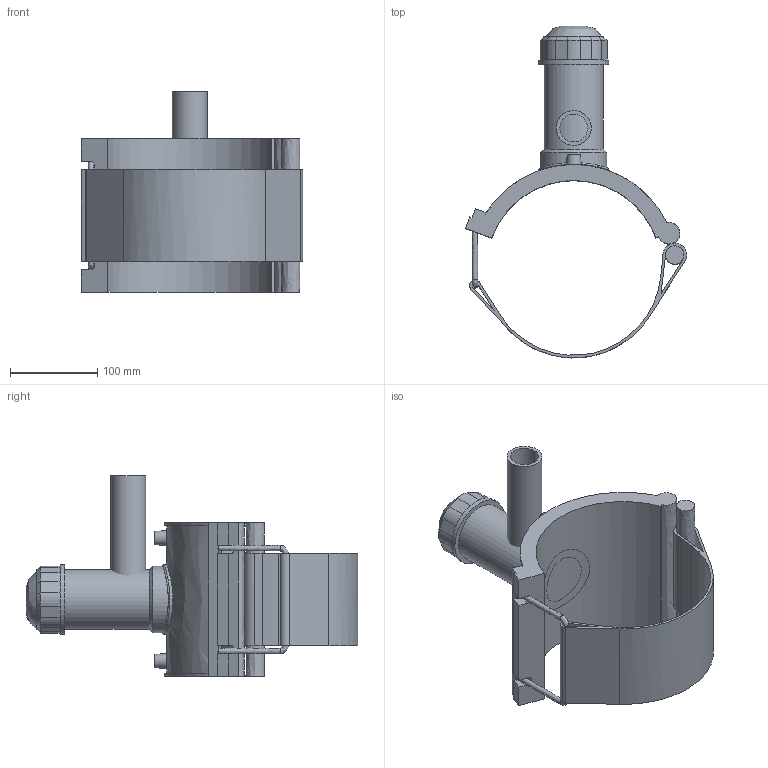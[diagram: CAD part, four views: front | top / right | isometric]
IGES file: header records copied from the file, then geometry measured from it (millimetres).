
Global section: file name: 4963P4200040; native system: Autodesk Inventor 2019; preprocessor: unknown; author: KIM; date: 20220317.113146; units: millimetre
Bounding box: 253.18 x 379.96 x 230 mm (x, y, z)
Volume: 1549877.9 mm3; surface area: 344631.3 mm2
Topology: 3 solids, 3 shells, 122 faces, 309 edges, 201 vertices
Faces by surface type: bspline 122
